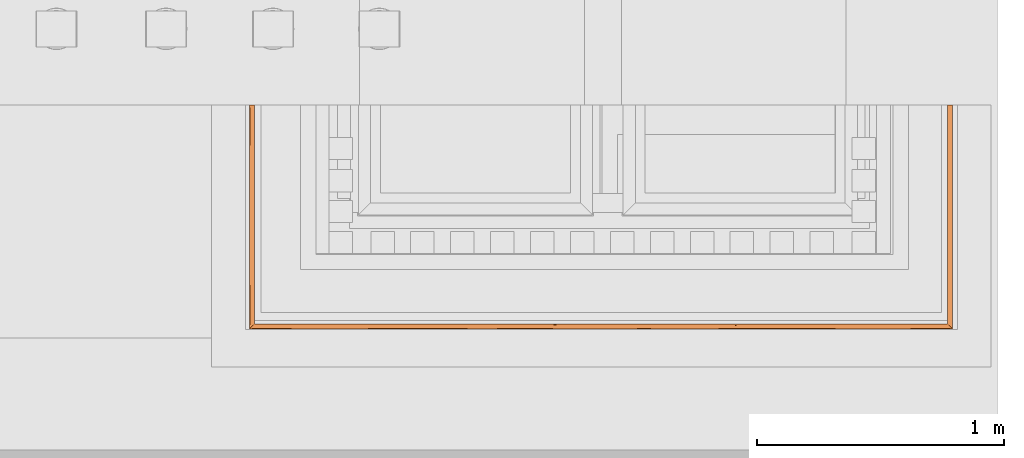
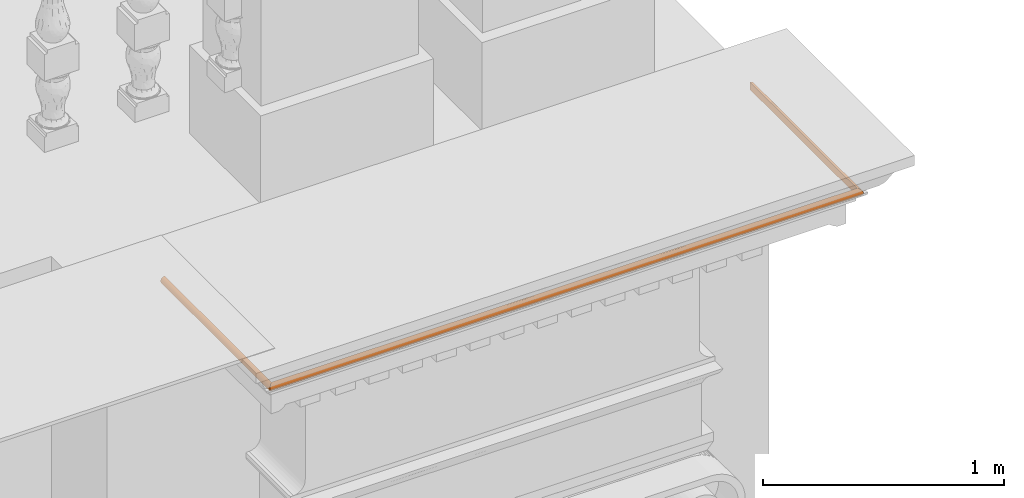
# One storey, part 40 of 44: 1 proxy.
"""IFC2X3 building model written with IfcOpenShell, lengths in metres."""

import ifcopenshell
import ifcopenshell.guid

model = None  # the IFC model being written
_history = None  # IfcOwnerHistory: only IFC2X3 demands one
_inside = {}  # id of a spatial element -> (the spatial element, [elements in it])
_under = {}  # id of a project, library or spatial element -> (it, [spatial elements below it])
_declared = {}  # id of a project -> (the project, [libraries it declares])
_typed = {}  # id of a type object -> (the type object, [elements of that type])
_made_of = {}  # id of a material, layer set ... -> (it, [elements and type objects made of it])


def new_model(schema):
    """Start an empty IFC model of exactly this schema.

    Asked for "IFC4X3", IfcOpenShell would pick the latest addendum, in which some entities
    have other attributes; the version numbers below select the first issue.
    IFC2X3 requires an IfcOwnerHistory on every rooted entity: one is made here for all.
    """
    global model, _history
    if schema == "IFC4X3":
        model = ifcopenshell.file(schema_version=(4, 3, 0, 0))
    else:
        model = ifcopenshell.file(schema=schema)
    _inside.clear()
    _under.clear()
    _declared.clear()
    _typed.clear()
    _made_of.clear()
    _history = None
    if model.schema == "IFC2X3":
        org = make("IfcOrganization", Name="unknown")
        user = make(
            "IfcPersonAndOrganization",
            ThePerson=make("IfcPerson", FamilyName="unknown"),
            TheOrganization=org,
        )
        app = make(
            "IfcApplication",
            ApplicationDeveloper=org,
            Version="unknown",
            ApplicationFullName="unknown",
            ApplicationIdentifier="unknown",
        )
        _history = make(
            "IfcOwnerHistory",
            OwningUser=user,
            OwningApplication=app,
            ChangeAction="ADDED",
            CreationDate=0,
        )
    return model


def make(cls, **values):
    """One entity of the class cls with the attributes given. An attribute that is None is left unset."""
    return model.create_entity(
        cls, **{name: value for name, value in values.items() if value is not None}
    )


def entity(cls, *values):
    """Any entity or typed value of the class cls, its attributes in the order of the schema. None: left unset."""
    e = model.create_entity(cls)
    for i, value in enumerate(values):
        if value is not None:
            e[i] = value
    return e


def rooted(cls, **values):
    """An entity with a GlobalId (a new one), such as an element, a storey or a relation."""
    return make(cls, GlobalId=ifcopenshell.guid.new(), OwnerHistory=_history, **values)


def si_unit(unit_type, name, prefix=None):
    """IfcSIUnit, for example si_unit("LENGTHUNIT", "METRE", prefix="MILLI")."""
    return make("IfcSIUnit", UnitType=unit_type, Prefix=prefix, Name=name)


def converted_unit(unit_type, name, factor, base, dimensions=None, offset=None):
    """IfcConversionBasedUnit, such as the inch: factor (a typed value) times the base unit."""
    return make(
        "IfcConversionBasedUnit"
        if offset is None
        else "IfcConversionBasedUnitWithOffset",
        ConversionOffset=offset,
        Dimensions=None
        if dimensions is None
        else entity("IfcDimensionalExponents", *dimensions),
        UnitType=unit_type,
        Name=name,
        ConversionFactor=make(
            "IfcMeasureWithUnit", ValueComponent=factor, UnitComponent=base
        ),
    )


def derived_unit(unit_type, elements):
    """IfcDerivedUnit: a product of units, each with its exponent."""
    return make(
        "IfcDerivedUnit",
        Elements=[
            make("IfcDerivedUnitElement", Unit=unit, Exponent=power)
            for unit, power in elements
        ],
        UnitType=unit_type,
    )


def assignment(units):
    """IfcUnitAssignment: the units of a project."""
    return None if units is None else make("IfcUnitAssignment", Units=units)


def point(xyz):
    """IfcCartesianPoint."""
    return None if xyz is None else make("IfcCartesianPoint", Coordinates=xyz)


def direction(xyz):
    """IfcDirection."""
    return None if xyz is None else make("IfcDirection", DirectionRatios=xyz)


def frame(location, z_axis=None, x_axis=None):
    """IfcAxis2Placement3D, a coordinate frame: its origin and axes. An axis left out is left unset."""
    return make(
        "IfcAxis2Placement3D",
        Location=point(location),
        Axis=direction(z_axis),
        RefDirection=direction(x_axis),
    )


def origin():
    """The frame at (0, 0, 0) with its axes left unset."""
    return frame((0.0, 0.0, 0.0))


def place(relative_to, where):
    """IfcLocalPlacement: puts the frame where relative to a parent placement (None: the world)."""
    return make(
        "IfcLocalPlacement", PlacementRelTo=relative_to, RelativePlacement=where
    )


def context(
    kind, dimensions, precision=None, world=None, true_north=None, identifier=None
):
    """IfcGeometricRepresentationContext, for example the 3D "Model" context."""
    return make(
        "IfcGeometricRepresentationContext",
        ContextIdentifier=identifier,
        ContextType=kind,
        CoordinateSpaceDimension=dimensions,
        Precision=precision,
        WorldCoordinateSystem=world,
        TrueNorth=true_north,
    )


def subcontext(parent, identifier, kind, view, scale=None):
    """IfcGeometricRepresentationSubContext, for example "Body" below "Model"."""
    return make(
        "IfcGeometricRepresentationSubContext",
        ContextIdentifier=identifier,
        ContextType=kind,
        ParentContext=parent,
        TargetScale=scale,
        TargetView=view,
    )


def project(units=None, contexts=None):
    """IfcProject with its units and contexts."""
    return rooted(
        "IfcProject",
        Name="project",
        RepresentationContexts=contexts,
        UnitsInContext=assignment(units),
    )


def spatial(cls, under=None, at=None, **own):
    """A site, building, storey or space (cls), placed at a placement, below another one or the project."""
    s = rooted(cls, ObjectPlacement=at, **own)
    if under is not None:
        _under.setdefault(under.id(), (under, []))[1].append(s)
    return s


def faces_of(points, faces, orient=None, outer=None):
    """IfcFace entities. A face is a list of loops; a loop is a list of indices into points, from 0.

    orient and outer hold one flag for each loop. By default every Orientation is true, the
    first loop of a face is its IfcFaceOuterBound and the others are IfcFaceBound.
    """
    made = []
    for i, loops in enumerate(faces):
        bounds = []
        for j, loop in enumerate(loops):
            is_outer = j == 0 if outer is None else outer[i][j]
            bounds.append(
                make(
                    "IfcFaceOuterBound" if is_outer else "IfcFaceBound",
                    Bound=make("IfcPolyLoop", Polygon=[points[k] for k in loop]),
                    Orientation=True if orient is None else orient[i][j],
                )
            )
        made.append(make("IfcFace", Bounds=bounds))
    return made


def faceted_brep(points, faces, orient=None, outer=None, voids=None):
    """IfcFacetedBrep: a solid bounded by flat faces; with voids (closed shells), ...WithVoids."""
    shared = [point(p) for p in points]
    hull = make("IfcClosedShell", CfsFaces=faces_of(shared, faces, orient, outer))
    if voids is None:
        return make("IfcFacetedBrep", Outer=hull)
    return make(
        "IfcFacetedBrepWithVoids",
        Outer=hull,
        Voids=[
            make(cls, CfsFaces=faces_of(shared, fs, o, b)) for cls, fs, o, b in voids
        ],
    )


def shape(context_of_items, identifier, shape_type, items):
    """IfcShapeRepresentation: the items that make up one representation, for example the "Body"."""
    return make(
        "IfcShapeRepresentation",
        ContextOfItems=context_of_items,
        RepresentationIdentifier=identifier,
        RepresentationType=shape_type,
        Items=items,
    )


def material(Name=None, Category=None):
    """IfcMaterial."""
    return make("IfcMaterial", Name=Name, Category=Category)


def made_of(thing, what):
    """Note that an element or type object is made of a material, layer set ...; save() writes the relation."""
    if what is not None:
        _made_of.setdefault(what.id(), (what, []))[1].append(thing)
    return thing


def element(
    cls,
    number,
    at=None,
    inside=None,
    cuts=None,
    type_object=None,
    material=None,
    context=None,
    identifier="Body",
    shape_type=None,
    held_by="IfcProductDefinitionShape",
    body=None,
    shapes=None,
    **own,
):
    """One element of the class cls, such as IfcWall. Its Tag is "e" and its number.

    at: its placement. inside: the storey or other place that contains it. cuts: it is an
    opening in that element (IfcRelVoidsElement). A single representation is given by context,
    identifier, shape_type and body (its items); several are given by shapes. held_by: the class
    of the entity that holds the representations. save() writes the other relations.
    """
    e = rooted(cls, Tag="e%d" % number, ObjectPlacement=at, **own)
    if body is not None:
        shapes = [shape(context, identifier, shape_type, body)]
    if shapes is not None:
        e.Representation = make(held_by, Representations=shapes)
    if inside is not None:
        _inside.setdefault(inside.id(), (inside, []))[1].append(e)
    if cuts is not None:
        rooted(
            "IfcRelVoidsElement", RelatingBuildingElement=cuts, RelatedOpeningElement=e
        )
    if type_object is not None:
        _typed.setdefault(type_object.id(), (type_object, []))[1].append(e)
    return made_of(e, material)


def aggregate(whole, parts):
    """IfcRelAggregates: a whole, such as a stair, and the parts it consists of."""
    return rooted("IfcRelAggregates", RelatingObject=whole, RelatedObjects=parts)


def save(model, path):
    """Write the relations noted so far, then the file.

    IfcRelAggregates (storeys below a building ...), IfcRelContainedInSpatialStructure (elements
    in a storey), IfcRelDefinesByType, IfcRelAssociatesMaterial and IfcRelDeclares: one each for
    every whole, place, type object, material and project.
    """
    for whole, parts in _under.values():
        aggregate(whole, parts)
    for where, things in _inside.values():
        rooted(
            "IfcRelContainedInSpatialStructure",
            RelatedElements=things,
            RelatingStructure=where,
        )
    for kind, things in _typed.values():
        rooted("IfcRelDefinesByType", RelatedObjects=things, RelatingType=kind)
    for what, things in _made_of.values():
        rooted("IfcRelAssociatesMaterial", RelatedObjects=things, RelatingMaterial=what)
    for by, libraries in _declared.values():
        rooted("IfcRelDeclares", RelatingContext=by, RelatedDefinitions=libraries)
    model.write(path)


model = new_model("IFC2X3")

# Units and contexts
model_context = context("Model", 3, precision=1e-05, world=origin(), true_north=direction((6.12303176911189e-17, 1.0)))
body_context = subcontext(model_context, "Body", "Model", "MODEL_VIEW")
ifc_project = project(units=[si_unit("LENGTHUNIT", "METRE"), si_unit("AREAUNIT", "SQUARE_METRE"), si_unit("VOLUMEUNIT", "CUBIC_METRE"), converted_unit("PLANEANGLEUNIT", "DEGREE", entity("IfcRatioMeasure", 0.0174532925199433), si_unit("PLANEANGLEUNIT", "RADIAN"), dimensions=[0, 0, 0, 0, 0, 0, 0]), si_unit("MASSUNIT", "GRAM", prefix="KILO"), derived_unit("MASSDENSITYUNIT", [(si_unit("MASSUNIT", "GRAM", prefix="KILO"), 1), (si_unit("LENGTHUNIT", "METRE"), -3)]), si_unit("TIMEUNIT", "SECOND"), si_unit("FREQUENCYUNIT", "HERTZ"), si_unit("THERMODYNAMICTEMPERATUREUNIT", "DEGREE_CELSIUS"), derived_unit("THERMALTRANSMITTANCEUNIT", [(si_unit("MASSUNIT", "GRAM", prefix="KILO"), 1), (si_unit("THERMODYNAMICTEMPERATUREUNIT", "KELVIN"), -1), (si_unit("TIMEUNIT", "SECOND"), -3)]), derived_unit("VOLUMETRICFLOWRATEUNIT", [(si_unit("LENGTHUNIT", "METRE"), 3), (si_unit("TIMEUNIT", "SECOND"), -1)]), si_unit("ELECTRICCURRENTUNIT", "AMPERE"), si_unit("ELECTRICVOLTAGEUNIT", "VOLT"), si_unit("POWERUNIT", "WATT"), si_unit("FORCEUNIT", "NEWTON", prefix="KILO"), si_unit("ILLUMINANCEUNIT", "LUX"), si_unit("LUMINOUSFLUXUNIT", "LUMEN"), si_unit("LUMINOUSINTENSITYUNIT", "CANDELA"), derived_unit("USERDEFINED", [(si_unit("MASSUNIT", "GRAM", prefix="KILO"), -1), (si_unit("LENGTHUNIT", "METRE"), -2), (si_unit("TIMEUNIT", "SECOND"), 3), (si_unit("LUMINOUSFLUXUNIT", "LUMEN"), 1)]), derived_unit("LINEARVELOCITYUNIT", [(si_unit("LENGTHUNIT", "METRE"), 1), (si_unit("TIMEUNIT", "SECOND"), -1)]), si_unit("PRESSUREUNIT", "PASCAL"), derived_unit("USERDEFINED", [(si_unit("LENGTHUNIT", "METRE"), -2), (si_unit("MASSUNIT", "GRAM", prefix="KILO"), 1), (si_unit("TIMEUNIT", "SECOND"), -2)])], contexts=[model_context])

# Site, building, storey
site_placement = place(None, origin())
site = spatial("IfcSite", under=ifc_project, at=site_placement, Name="Default", CompositionType="ELEMENT")
building_placement = place(site_placement, origin())
building = spatial("IfcBuilding", under=site, at=building_placement, CompositionType="ELEMENT")
storey_placement = place(building_placement, origin())
storey = spatial("IfcBuildingStorey", under=building, at=storey_placement, Name="Livello 1", CompositionType="ELEMENT", Elevation=0.0)

# Proxy
ifc_material = material(Name="Piperno")
proxy_placement = place(storey_placement, frame((8.99129761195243, 0.355124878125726, 23.0788390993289)))
element("IfcBuildingElementProxy", 1, at=proxy_placement, inside=storey, material=ifc_material, Name="Stratigrafia", context=body_context, shape_type="Brep", body=[
    faceted_brep([(2.84335871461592, 0.908247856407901, 0.0315863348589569), (2.84565631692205, 0.908247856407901, 0.0274250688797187), (2.84684265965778, 0.908247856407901, 0.0228220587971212), (2.84684265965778, 0.908247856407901, 0.0180686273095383), (2.84565631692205, 0.908247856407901, 0.0134656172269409), (2.84335871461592, 0.908247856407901, 0.0093043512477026), (2.84009526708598, 0.908247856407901, 0.00584819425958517), (2.83607251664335, 0.908247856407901, 0.00331588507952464), (2.83154506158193, 0.908247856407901, 0.00186769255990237), (2.8267994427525, 0.908247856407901, 0.0015952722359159), (2.8267994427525, 0.908247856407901, 0.0392954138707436), (2.83154506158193, 0.908247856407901, 0.0390229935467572), (2.83607251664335, 0.908247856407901, 0.0375748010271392), (2.84009526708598, 0.908247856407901, 0.0350424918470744), (0.00278161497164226, 0.908247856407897, 0.0274250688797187), (0.00507921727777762, 0.908247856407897, 0.0315863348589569), (0.00834266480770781, 0.908247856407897, 0.0350424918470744), (0.0123654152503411, 0.908247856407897, 0.0375748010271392), (0.0168928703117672, 0.908247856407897, 0.0390229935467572), (0.0216384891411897, 0.908247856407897, 0.0392954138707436), (0.0216384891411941, 0.908247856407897, 0.0015952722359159), (0.0168928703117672, 0.908247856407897, 0.00186769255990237), (0.0123654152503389, 0.908247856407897, 0.00331588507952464), (0.00834266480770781, 0.908247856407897, 0.00584819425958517), (0.00507921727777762, 0.908247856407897, 0.0093043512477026), (0.0027816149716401, 0.908247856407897, 0.0134656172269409), (0.0015952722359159, 0.908247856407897, 0.0180686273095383), (0.0015952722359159, 0.908247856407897, 0.0228220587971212), (2.83822898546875, 0.214377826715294, 0.0363944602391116), (2.83607251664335, 0.0123654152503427, 0.0375748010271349), (2.84009526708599, 0.00834266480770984, 0.0350424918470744), (2.84129866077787, 0.458798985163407, 0.0339639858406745), (2.84183610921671, 0.644526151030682, 0.0334174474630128), (2.83816384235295, 0.467085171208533, 0.0364356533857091), (2.8267994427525, 0.604692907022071, 0.0015952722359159), (2.83054907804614, 0.530011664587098, 0.00171025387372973), (2.83001274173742, 0.366464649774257, 0.00164786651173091), (2.84335871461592, 0.00507921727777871, 0.0315863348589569), (2.84189219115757, 0.27386888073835, 0.0333577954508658), (2.84640221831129, 0.26925326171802, 0.025132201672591), (2.84466010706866, 0.207742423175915, 0.0295397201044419), (2.84565631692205, 0.00278161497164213, 0.0274250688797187), (2.83396197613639, 0.280257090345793, 0.0384071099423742), (2.84503240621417, 0.455215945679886, 0.0120645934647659), (2.84640733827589, 0.454921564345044, 0.0157785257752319), (2.8446667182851, 0.271444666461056, 0.0113630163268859), (2.84335871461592, 0.00507921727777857, 0.00930435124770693), (2.84009526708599, 0.0083426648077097, 0.00584819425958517), (2.84187896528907, 0.210753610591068, 0.00751877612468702), (2.83154506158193, 0.0168928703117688, 0.0018676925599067), (2.83031173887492, 0.201549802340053, 0.00168072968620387), (2.83396214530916, 0.280675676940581, 0.00248363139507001), (2.84684265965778, 0.00159527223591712, 0.0228220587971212), (2.84699273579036, 0.205349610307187, 0.0204453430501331), (2.8267994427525, 0.021638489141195, 0.0392954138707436), (2.83154506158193, 0.0168928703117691, 0.0390229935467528), (2.83030951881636, 0.201466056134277, 0.039210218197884), (2.8267994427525, 0.301137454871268, 0.0392954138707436), (2.83063053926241, 0.452914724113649, 0.0391695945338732), (2.84565631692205, 0.00278161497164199, 0.0134656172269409), (2.84183610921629, 0.702798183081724, 0.0074732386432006), (2.83816384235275, 0.712887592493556, 0.00445503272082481), (2.83607251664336, 0.012365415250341, 0.00331588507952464), (2.83816384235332, 0.704220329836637, 0.0364356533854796), (2.8338545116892, 0.644526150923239, 0.0384418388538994), (2.84699273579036, 0.712887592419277, 0.0204453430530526), (2.84639481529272, 0.702798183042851, 0.0157296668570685), (2.84463889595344, 0.704220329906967, 0.0295782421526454), (2.84639481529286, 0.642111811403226, 0.0251610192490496), (2.84468577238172, 0.45551473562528, 0.0294928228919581), (2.84640020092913, 0.196313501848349, 0.0157506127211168), (2.84684265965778, 0.00159527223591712, 0.0180686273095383), (2.84696382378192, 0.456343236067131, 0.0214902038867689), (2.84621722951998, 0.455561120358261, 0.0258030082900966), (2.83830664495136, 0.458295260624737, 0.00454582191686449), (2.84254895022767, 0.453619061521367, 0.00827237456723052), (2.83822596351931, 0.204901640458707, 0.00449430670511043), (2.8267994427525, 0.301137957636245, 0.0015952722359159), (2.8267994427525, 0.0216384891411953, 0.0015952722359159), (2.83391422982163, 0.458791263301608, 0.00246805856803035), (2.83016512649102, 0.721817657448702, 0.00166401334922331), (2.83385451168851, 0.636898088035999, 0.00244884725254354), (2.84463889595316, 0.638410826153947, 0.0113124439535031), (2.82679944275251, 0.604692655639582, 0.0392954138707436), (2.83012292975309, 0.723306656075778, 0.0392312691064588), (2.83464434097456, 0.462931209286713, 0.0381698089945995), (2.63756957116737, 0.0102100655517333, 0.00449551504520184), (2.57476271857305, 0.0144786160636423, 0.00248270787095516), (0.0015952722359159, 0.0015952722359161, 0.0228220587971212), (0.145231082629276, 0.0014451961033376, 0.0204453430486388), (0.222629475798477, 0.00203700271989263, 0.0251372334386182), (0.0216384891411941, 0.0216384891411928, 0.0392954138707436), (0.0168928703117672, 0.0168928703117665, 0.0390229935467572), (0.203583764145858, 0.0183182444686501, 0.0392316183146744), (2.64900331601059, 0.00377868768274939, 0.0295412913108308), (2.62580845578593, 0.00203700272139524, 0.0251372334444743), (2.38227488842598, 0.00192473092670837, 0.0246751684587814), (2.52067139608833, 0.00144519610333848, 0.0204453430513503), (0.609781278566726, 0.00689255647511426, 0.00717209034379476), (0.443456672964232, 0.01013600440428, 0.00454279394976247), (0.733282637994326, 0.0106616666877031, 0.00421751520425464), (0.466163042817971, 0.00192473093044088, 0.0162155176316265), (0.32776653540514, 0.00144519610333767, 0.0204453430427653), (0.222629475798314, 0.00203700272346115, 0.0157534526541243), (0.0015952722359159, 0.00159527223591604, 0.0180686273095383), (0.775211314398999, 0.00278265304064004, 0.0134630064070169), (0.690017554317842, 0.00182479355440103, 0.0166769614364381), (0.595093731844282, 0.0027395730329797, 0.0135723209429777), (0.403758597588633, 0.0176730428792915, 0.0391509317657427), (0.628749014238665, 0.0216384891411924, 0.0392954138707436), (0.32519375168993, 0.0216384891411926, 0.0392954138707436), (0.00278161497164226, 0.00278161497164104, 0.0274250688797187), (0.00507921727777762, 0.00507921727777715, 0.0315863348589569), (0.199434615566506, 0.00377868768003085, 0.0295412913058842), (0.265342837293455, 0.00654752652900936, 0.0333597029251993), (0.00834266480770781, 0.00834266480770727, 0.0350424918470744), (2.23865665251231, 0.00689255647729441, 0.0337185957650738), (2.40498125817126, 0.0101360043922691, 0.0363478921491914), (2.11515529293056, 0.0106616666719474, 0.0366731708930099), (0.199434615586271, 0.00377868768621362, 0.0113493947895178), (0.00278161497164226, 0.00278161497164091, 0.0134656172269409), (0.496645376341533, 0.00650199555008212, 0.0333109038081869), (0.440855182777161, 0.0101368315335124, 0.0363484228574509), (2.57372725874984, 0.0144781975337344, 0.0384078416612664), (2.64467049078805, 0.0183129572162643, 0.0392310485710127), (2.4440037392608, 0.0176991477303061, 0.0391546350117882), (0.775425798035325, 0.0174017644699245, 0.0391102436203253), (0.573603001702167, 0.0153889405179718, 0.0386798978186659), (1.79990849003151, 0.00150446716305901, 0.0219407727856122), (1.64269787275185, 0.00163670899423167, 0.0177619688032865), (1.91098158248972, 0.00182272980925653, 0.0166871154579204), (1.64512055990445, 0.0171037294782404, 0.0390608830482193), (1.46941676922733, 0.0165294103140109, 0.0389518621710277), (1.54037072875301, 0.0132319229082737, 0.0379521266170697), (0.210868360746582, 0.0102100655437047, 0.0363951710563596), (0.0123654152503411, 0.012365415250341, 0.0375748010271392), (0.273675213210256, 0.0144786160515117, 0.0384079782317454), (2.40758274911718, 0.0101368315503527, 0.00454226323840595), (2.58309509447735, 0.00654752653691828, 0.00753098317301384), (2.35179255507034, 0.00650199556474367, 0.00757978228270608), (2.63618031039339, 0.0102096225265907, 0.0363948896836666), (0.434319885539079, 0.00375434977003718, 0.0294968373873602), (0.467738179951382, 0.00192823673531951, 0.0246904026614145), (0.735975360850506, 0.00298732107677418, 0.0279218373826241), (0.955175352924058, 0.00181743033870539, 0.024177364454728), (1.02942023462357, 0.00151455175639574, 0.018827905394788), (1.21402024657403, 0.00162121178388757, 0.0230183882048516), (0.212257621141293, 0.0102096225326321, 0.00449579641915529), (0.274710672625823, 0.0144781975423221, 0.00248284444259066), (0.203767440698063, 0.0183129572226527, 0.00165963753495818), (0.404434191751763, 0.0176991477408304, 0.00173605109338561), (2.64900331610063, 0.00377868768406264, 0.0113493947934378), (2.70320684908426, 0.00144519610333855, 0.0204453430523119), (2.62580845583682, 0.00203700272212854, 0.0157534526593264), (0.84171011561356, 0.00152507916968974, 0.018709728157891), (1.27400284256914, 0.0115043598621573, 0.00374372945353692), (1.08408246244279, 0.0134028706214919, 0.00287012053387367), (1.28353331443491, 0.0164668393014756, 0.00195181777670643), (2.19232649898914, 0.00186933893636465, 0.0244263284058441), (2.17559801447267, 0.00144519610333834, 0.0204453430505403), (2.34813470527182, 0.00145578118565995, 0.0210777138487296), (2.58182587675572, 0.00654726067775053, 0.0333594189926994), (0.266612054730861, 0.00654726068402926, 0.00753126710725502), (0.00834266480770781, 0.00834266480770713, 0.00584819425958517), (0.00507921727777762, 0.00507921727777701, 0.0093043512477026), (1.12066304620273, 0.021638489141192, 0.0392954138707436), (0.997684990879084, 0.0179973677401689, 0.0391943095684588), (1.29179829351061, 0.0163362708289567, 0.0389110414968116), (1.15027194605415, 0.00293084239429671, 0.0277893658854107), (1.35466625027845, 0.00474557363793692, 0.0311143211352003), (1.10025454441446, 0.00598031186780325, 0.0327259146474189), (2.52324418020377, 0.0216384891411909, 0.0392954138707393), (1.72777085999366, 0.0216384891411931, 0.0015952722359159), (1.8507529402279, 0.0179973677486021, 0.00169637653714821), (1.55663963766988, 0.0163362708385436, 0.00197964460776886), (0.949636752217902, 0.00210012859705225, 0.0155137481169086), (0.0123654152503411, 0.0123654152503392, 0.00331588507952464), (2.07322661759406, 0.00278265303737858, 0.0274276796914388), (2.24590271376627, 0.00291481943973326, 0.0277512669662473), (2.07301213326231, 0.0174017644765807, 0.00178044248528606), (2.21968705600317, 0.0216384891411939, 0.0015952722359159), (2.27483493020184, 0.0153889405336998, 0.00221078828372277), (2.44467933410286, 0.017673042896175, 0.00173975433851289), (2.5232410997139, 0.0216384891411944, 0.0015952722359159), (2.64485416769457, 0.0183182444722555, 0.00165906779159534), (2.41411804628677, 0.00375434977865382, 0.0113938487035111), (2.38069975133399, 0.00192823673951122, 0.0162002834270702), (2.11246257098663, 0.00298732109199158, 0.012968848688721), (2.2743767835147, 0.0153976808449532, 0.0386822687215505), (0.0168928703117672, 0.0168928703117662, 0.00186769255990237), (0.574061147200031, 0.0153976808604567, 0.00220841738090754), (0.0216384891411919, 0.0216384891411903, 0.0015952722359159), (0.32519253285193, 0.0216384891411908, 0.00159527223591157), (2.40632271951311, 0.00590995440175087, 0.0326431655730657), (2.39334385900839, 0.00375220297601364, 0.0294929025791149), (0.442115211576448, 0.00590995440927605, 0.00824752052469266), (0.455094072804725, 0.0037522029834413, 0.0113977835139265), (2.21968826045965, 0.0216384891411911, 0.0392954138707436), (0.628750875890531, 0.0216384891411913, 0.0015952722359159), (0.660247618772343, 0.00725728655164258, 0.0340782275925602), (0.997684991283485, 0.0136581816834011, 0.0381192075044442), (0.944791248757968, 0.00391137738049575, 0.0297788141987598), (1.39366594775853, 0.00734109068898, 0.0341581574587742), (1.59298093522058, 0.00724537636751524, 0.0340667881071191), (1.52384505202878, 0.00969429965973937, 0.0360556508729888), (2.18819031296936, 0.00725728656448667, 0.00681245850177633), (1.85075294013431, 0.0136581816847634, 0.00277147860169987), (1.42153819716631, 0.0021795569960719, 0.015228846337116), (1.42421896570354, 0.00144519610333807, 0.0204453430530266), (1.23550369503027, 0.00152685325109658, 0.0186906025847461), (1.19280459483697, 0.00728233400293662, 0.00678846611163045), (1.08074890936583, 0.0098312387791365, 0.00474252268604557), (1.91613299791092, 0.0216384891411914, 0.039295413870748), (2.00993849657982, 0.0153707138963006, 0.0386749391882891), (1.83603718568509, 0.0169994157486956, 0.0390424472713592), (1.61257773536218, 0.0216384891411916, 0.0392954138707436), (1.89203566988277, 0.0103600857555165, 0.0364894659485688), (1.76435546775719, 0.0134028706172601, 0.0380205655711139), (1.9822695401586, 0.0064223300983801, 0.0332246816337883), (0.932304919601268, 0.0216384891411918, 0.0015952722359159), (0.838499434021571, 0.0153707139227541, 0.0022157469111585), (1.07201888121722, 0.0179604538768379, 0.00170102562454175), (1.23585896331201, 0.0216384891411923, 0.00159527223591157), (0.917061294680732, 0.0116210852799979, 0.00368249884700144), (0.866168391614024, 0.00642233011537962, 0.00766600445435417), (0.720189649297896, 0.0107250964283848, 0.0367108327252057), (0.938275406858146, 0.0095507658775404, 0.0359567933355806), (0.874706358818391, 0.0216384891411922, 0.0392954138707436), (1.91016252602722, 0.00955076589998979, 0.00493389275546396), (2.12824828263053, 0.0107250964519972, 0.0041798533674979), (1.97372680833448, 0.0216384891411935, 0.0015952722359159), (0.679736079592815, 0.00445375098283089, 0.0102159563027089), (0.500303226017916, 0.00145578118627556, 0.0198129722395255), (1.12770429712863, 0.00206977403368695, 0.0156274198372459), (0.989754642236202, 0.00339597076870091, 0.0120839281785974), (1.21505934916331, 0.00322240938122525, 0.0124452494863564), (1.1150262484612, 0.00491615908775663, 0.00953120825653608), (1.28622775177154, 0.0052369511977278, 0.0090914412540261), (1.44429130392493, 0.00438724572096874, 0.0103199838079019), (1.69091020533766, 0.00681204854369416, 0.00725415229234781), (1.66941425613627, 0.00315255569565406, 0.0125964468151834), (1.38840431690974, 0.00244126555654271, 0.0264991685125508), (1.59998179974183, 0.00348248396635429, 0.0289798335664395), (0.82223981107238, 0.00643143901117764, 0.0332345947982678), (1.89218413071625, 0.00332368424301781, 0.0122320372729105), (1.99026631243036, 0.00170928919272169, 0.0235933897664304), (1.79258400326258, 0.00735012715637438, 0.0341667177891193), (1.80049937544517, 0.00463251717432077, 0.0309471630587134), (0.657662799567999, 0.0048981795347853, 0.0313340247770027), (0.657707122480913, 0.00187018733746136, 0.0244302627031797), (0.67283991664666, 0.0014451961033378, 0.0204453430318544), (2.14266022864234, 0.00459318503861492, 0.0308880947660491), (1.79409940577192, 0.00249269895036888, 0.0266491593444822), (1.59634544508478, 0.00184958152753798, 0.0243335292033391), (2.0261981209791, 0.00643143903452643, 0.00765609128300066), (2.19077513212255, 0.00489817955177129, 0.00955666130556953), (2.19073080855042, 0.00187018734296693, 0.0164604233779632), (1.94627393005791, 0.0014473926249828, 0.0201572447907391), (1.68707490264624, 0.0100573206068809, 0.0362971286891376), (0.731073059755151, 0.0140043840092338, 0.0382462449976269), (2.117364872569, 0.0140043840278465, 0.00264444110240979), (1.14808094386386, 0.0106407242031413, 0.036660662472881), (1.36662065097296, 0.0105567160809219, 0.0366101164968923), (1.36662039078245, 0.0216384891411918, 0.0392954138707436), (1.70035698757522, 0.0106407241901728, 0.00423002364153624), (1.48181727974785, 0.0105567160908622, 0.00428056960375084), (1.48181491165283, 0.0216384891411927, 0.0015952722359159), (1.64459732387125, 0.00145781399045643, 0.0211357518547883), (1.97116033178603, 0.00412934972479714, 0.0301524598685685), (1.44230818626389, 0.00715102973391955, 0.0069152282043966), (1.02953721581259, 0.00684097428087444, 0.00722455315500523), (1.85158289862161, 0.00539159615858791, 0.00888859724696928), (0.00204311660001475, 0.703138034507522, 0.0251610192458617), (0.014475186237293, 0.282161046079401, 0.0384068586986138), (0.0181182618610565, 0.201848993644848, 0.0392090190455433), (0.0178758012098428, 0.410799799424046, 0.0391787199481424), (0.00660182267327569, 0.646390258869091, 0.0334174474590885), (0.00379903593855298, 0.712904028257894, 0.0295782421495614), (0.00416344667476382, 0.458183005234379, 0.0106815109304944), (0.0020431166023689, 0.455514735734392, 0.0157296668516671), (0.00379903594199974, 0.646374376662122, 0.0113124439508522), (0.0102740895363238, 0.704638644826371, 0.036435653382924), (0.0102740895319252, 0.471731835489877, 0.0364356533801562), (0.0145834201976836, 0.646390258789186, 0.0384418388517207), (0.00655901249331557, 0.210534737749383, 0.00751872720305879), (0.00660182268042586, 0.471692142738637, 0.00747323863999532), (0.0101880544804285, 0.279921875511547, 0.00450951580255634), (0.00654612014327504, 0.2720573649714, 0.0333582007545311), (0.00610145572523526, 0.459565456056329, 0.0328661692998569), (0.00379903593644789, 0.456663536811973, 0.0295782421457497), (0.00204311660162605, 0.704635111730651, 0.0157296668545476), (0.0014451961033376, 0.63984346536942, 0.0204453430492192), (0.0216384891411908, 0.301136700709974, 0.0392954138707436), (0.0183249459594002, 0.723657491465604, 0.0392323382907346), (0.00660182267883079, 0.708474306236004, 0.00747323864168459), (0.0102740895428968, 0.665513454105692, 0.00445503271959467), (0.0102090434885, 0.214073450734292, 0.0363945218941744), (0.0183675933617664, 0.192450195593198, 0.00165382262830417), (0.00203773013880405, 0.196343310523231, 0.0157506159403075), (0.00377785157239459, 0.20748488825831, 0.0295397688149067), (0.00203563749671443, 0.272006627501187, 0.0251319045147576), (0.0145004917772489, 0.219564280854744, 0.00247558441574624), (0.0145834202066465, 0.731058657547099, 0.00244884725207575), (0.0181702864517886, 0.68058129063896, 0.00167558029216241), (0.0145834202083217, 0.521096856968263, 0.00244884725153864), (0.0014451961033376, 0.206002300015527, 0.0204453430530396), (0.00218991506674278, 0.469458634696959, 0.025697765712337), (0.00148461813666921, 0.422922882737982, 0.0216652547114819), (0.010909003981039, 0.472250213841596, 0.00407253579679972), (0.00377131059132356, 0.270509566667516, 0.0113628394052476), (0.0174616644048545, 0.569310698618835, 0.0391195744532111), (0.0142862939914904, 0.464454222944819, 0.0383440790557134), (0.0216384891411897, 0.756464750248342, 0.0015952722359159), (0.0184370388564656, 0.49241986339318, 0.00164666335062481), (0.0216384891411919, 0.604693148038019, 0.0015952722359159), (0.021638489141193, 0.30113843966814, 0.0015952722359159), (0.021638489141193, 0.604692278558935, 0.0392954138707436)], [[[0, 1, 2, 3, 4, 5, 6, 7, 8, 9, 10, 11, 12, 13]], [[14, 15, 16, 17, 18, 19, 20, 21, 22, 23, 24, 25, 26, 27]], [[28, 29, 30]], [[31, 32, 33]], [[34, 35, 36]], [[30, 37, 38]], [[39, 40, 41]], [[33, 42, 28]], [[40, 37, 41]], [[43, 44, 45]], [[32, 0, 13]], [[46, 47, 48]], [[49, 50, 51]], [[39, 52, 53]], [[54, 55, 56]], [[57, 56, 58]], [[41, 52, 39]], [[55, 29, 42]], [[59, 46, 45]], [[60, 61, 6]], [[62, 49, 51]], [[63, 13, 12]], [[63, 12, 64]], [[65, 66, 3]], [[67, 0, 32]], [[0, 67, 1]], [[68, 2, 1]], [[67, 69, 68]], [[70, 53, 71]], [[39, 53, 72]], [[69, 73, 68]], [[48, 74, 75]], [[76, 48, 47]], [[53, 52, 71]], [[77, 50, 78]], [[51, 36, 79]], [[80, 8, 81]], [[60, 82, 75]], [[44, 65, 72]], [[81, 8, 7]], [[66, 82, 4]], [[66, 4, 3]], [[11, 64, 12]], [[70, 44, 53]], [[32, 63, 33]], [[4, 82, 5]], [[35, 34, 80]], [[7, 6, 61]], [[8, 80, 9]], [[10, 83, 84]], [[74, 48, 76]], [[29, 28, 42]], [[5, 60, 6]], [[40, 69, 38]], [[31, 69, 32]], [[5, 82, 60]], [[85, 33, 64]], [[56, 55, 42]], [[11, 84, 64]], [[58, 83, 57]], [[3, 2, 65]], [[44, 82, 66]], [[82, 43, 75]], [[61, 74, 81]], [[48, 45, 46]], [[74, 60, 75]], [[69, 40, 39]], [[38, 37, 40]], [[71, 59, 70]], [[72, 68, 73]], [[53, 44, 72]], [[65, 44, 66]], [[62, 76, 47]], [[75, 45, 48]], [[69, 67, 32]], [[68, 1, 67]], [[30, 38, 28]], [[28, 38, 31]], [[33, 63, 64]], [[32, 13, 63]], [[2, 68, 65]], [[72, 65, 68]], [[74, 61, 60]], [[81, 7, 61]], [[59, 45, 70]], [[44, 70, 45]], [[62, 51, 76]], [[74, 76, 51]], [[35, 80, 81]], [[9, 80, 34]], [[79, 35, 81]], [[51, 50, 36]], [[81, 74, 79]], [[74, 51, 79]], [[69, 39, 73]], [[72, 73, 39]], [[75, 43, 45]], [[82, 44, 43]], [[78, 50, 49]], [[36, 50, 77]], [[34, 36, 77]], [[36, 35, 79]], [[28, 31, 33]], [[69, 31, 38]], [[85, 58, 42]], [[84, 58, 64]], [[58, 56, 42]], [[54, 56, 57]], [[10, 84, 11]], [[58, 84, 83]], [[58, 85, 64]], [[42, 33, 85]], [[9, 34, 77, 78, 54, 57, 83, 10]], [[62, 86, 87]], [[88, 89, 90]], [[91, 92, 93]], [[86, 62, 47]], [[41, 94, 95]], [[96, 97, 95]], [[98, 99, 100]], [[101, 102, 103]], [[88, 104, 89]], [[105, 106, 107]], [[108, 109, 110]], [[111, 88, 90]], [[112, 111, 113]], [[114, 115, 112]], [[116, 117, 118]], [[119, 103, 120]], [[114, 121, 122]], [[123, 124, 125]], [[126, 109, 127]], [[128, 129, 130]], [[131, 132, 133]], [[134, 135, 115]], [[136, 92, 135]], [[137, 138, 139]], [[30, 29, 140]], [[141, 142, 143]], [[144, 145, 146]], [[99, 147, 148]], [[117, 140, 123]], [[148, 149, 150]], [[46, 59, 151]], [[95, 97, 152]], [[153, 59, 71]], [[103, 102, 89]], [[106, 105, 154]], [[155, 156, 157]], [[158, 159, 160]], [[46, 138, 47]], [[140, 161, 30]], [[162, 163, 147]], [[162, 164, 163]], [[165, 166, 167]], [[59, 153, 151]], [[152, 71, 52]], [[111, 90, 113]], [[87, 49, 62]], [[168, 169, 170]], [[161, 37, 30]], [[54, 171, 124]], [[172, 173, 174]], [[105, 175, 154]], [[163, 176, 147]], [[177, 158, 178]], [[179, 180, 181]], [[182, 180, 183]], [[78, 49, 184]], [[71, 152, 153]], [[185, 186, 187]], [[29, 55, 123]], [[188, 117, 123]], [[176, 189, 148]], [[190, 99, 148]], [[104, 120, 103]], [[90, 142, 141]], [[52, 41, 95]], [[153, 186, 185]], [[135, 134, 136]], [[108, 93, 136]], [[182, 184, 87]], [[191, 192, 149]], [[121, 114, 141]], [[134, 114, 122]], [[139, 138, 185]], [[86, 138, 137]], [[193, 117, 116]], [[194, 95, 94]], [[195, 99, 98]], [[196, 103, 119]], [[136, 122, 127]], [[93, 92, 136]], [[87, 137, 181]], [[184, 49, 87]], [[55, 124, 123]], [[125, 197, 188]], [[189, 149, 148]], [[150, 198, 190]], [[120, 164, 119]], [[101, 103, 196]], [[142, 90, 102]], [[141, 114, 113]], [[41, 37, 94]], [[96, 95, 194]], [[186, 153, 97]], [[185, 138, 151]], [[122, 121, 199]], [[167, 166, 200]], [[200, 166, 126]], [[168, 170, 201]], [[202, 203, 204]], [[137, 139, 205]], [[174, 173, 206]], [[206, 173, 179]], [[207, 208, 209]], [[155, 210, 211]], [[197, 212, 213]], [[117, 188, 118]], [[214, 215, 131]], [[216, 213, 217]], [[218, 116, 118]], [[198, 219, 220]], [[99, 190, 100]], [[221, 222, 157]], [[223, 220, 156]], [[224, 98, 100]], [[225, 226, 200]], [[227, 166, 165]], [[225, 127, 122]], [[228, 206, 229]], [[230, 173, 172]], [[229, 181, 137]], [[123, 140, 29]], [[161, 140, 117]], [[148, 147, 176]], [[162, 147, 99]], [[114, 134, 115]], [[136, 134, 122]], [[138, 86, 47]], [[87, 86, 137]], [[164, 162, 119]], [[119, 162, 195]], [[141, 113, 90]], [[114, 112, 113]], [[37, 161, 94]], [[94, 161, 193]], [[185, 151, 153]], [[138, 46, 151]], [[231, 105, 107]], [[232, 102, 101]], [[233, 234, 235]], [[175, 233, 145]], [[236, 237, 235]], [[238, 239, 240]], [[208, 146, 209]], [[208, 241, 146]], [[169, 241, 242]], [[243, 170, 226]], [[240, 207, 238]], [[244, 187, 130]], [[159, 158, 245]], [[246, 203, 247]], [[232, 142, 102]], [[201, 248, 143]], [[232, 249, 142]], [[154, 144, 250]], [[178, 194, 251]], [[160, 97, 96]], [[242, 252, 247]], [[242, 241, 253]], [[253, 252, 242]], [[208, 207, 129]], [[160, 186, 97]], [[187, 254, 255]], [[160, 256, 186]], [[257, 159, 245]], [[213, 118, 188]], [[216, 217, 258]], [[220, 100, 190]], [[223, 156, 211]], [[226, 225, 243]], [[259, 200, 126]], [[228, 229, 254]], [[260, 206, 179]], [[197, 213, 188]], [[217, 214, 131]], [[198, 220, 190]], [[221, 220, 219]], [[178, 251, 177]], [[116, 251, 193]], [[224, 234, 231]], [[98, 231, 195]], [[126, 166, 227]], [[200, 261, 167]], [[262, 204, 133]], [[263, 167, 132]], [[109, 126, 227]], [[126, 127, 259]], [[179, 173, 230]], [[206, 264, 174]], [[265, 155, 157]], [[157, 222, 266]], [[180, 179, 230]], [[179, 181, 260]], [[248, 141, 143]], [[121, 248, 199]], [[255, 185, 187]], [[139, 255, 205]], [[103, 89, 104]], [[90, 89, 102]], [[95, 152, 52]], [[153, 152, 97]], [[201, 243, 248]], [[261, 200, 226]], [[168, 241, 169]], [[170, 202, 261]], [[203, 169, 242]], [[170, 169, 202]], [[203, 242, 247]], [[204, 203, 258]], [[170, 261, 226]], [[167, 261, 262]], [[146, 241, 168]], [[129, 267, 208]], [[144, 146, 168]], [[209, 146, 145]], [[201, 144, 168]], [[144, 143, 249]], [[208, 253, 241]], [[252, 253, 128]], [[245, 252, 128]], [[177, 251, 268]], [[268, 252, 177]], [[247, 218, 246]], [[216, 218, 118]], [[258, 203, 246]], [[216, 258, 246]], [[258, 217, 133]], [[131, 133, 217]], [[167, 262, 133]], [[218, 216, 246]], [[213, 216, 118]], [[217, 213, 214]], [[263, 132, 215]], [[167, 263, 165]], [[213, 212, 214]], [[215, 214, 212]], [[145, 233, 209]], [[209, 233, 207]], [[238, 207, 235]], [[267, 128, 253]], [[235, 234, 236]], [[238, 269, 239]], [[210, 270, 211]], [[238, 237, 269]], [[228, 264, 206]], [[244, 271, 254]], [[207, 240, 129]], [[240, 244, 130]], [[240, 130, 129]], [[130, 187, 256]], [[233, 175, 234]], [[207, 233, 235]], [[231, 234, 105]], [[236, 270, 210]], [[154, 175, 145]], [[105, 234, 175]], [[144, 154, 145]], [[154, 250, 106]], [[232, 106, 250]], [[107, 101, 196]], [[101, 107, 106]], [[196, 195, 231]], [[196, 231, 107]], [[224, 231, 98]], [[133, 204, 258]], [[202, 204, 262]], [[202, 262, 261]], [[203, 202, 169]], [[224, 236, 234]], [[237, 236, 210]], [[210, 155, 269]], [[235, 237, 238]], [[210, 269, 237]], [[239, 269, 265]], [[236, 224, 270]], [[100, 223, 224]], [[270, 224, 223]], [[155, 211, 156]], [[221, 157, 156]], [[155, 265, 269]], [[157, 266, 174]], [[265, 157, 174]], [[223, 211, 270]], [[220, 223, 100]], [[220, 221, 156]], [[222, 221, 219]], [[243, 201, 170]], [[172, 174, 266]], [[144, 201, 143]], [[132, 131, 215]], [[167, 133, 132]], [[271, 240, 239]], [[254, 187, 244]], [[271, 228, 254]], [[264, 239, 265]], [[239, 264, 228]], [[174, 264, 265]], [[108, 136, 127]], [[91, 93, 110]], [[109, 108, 127]], [[110, 93, 108]], [[182, 87, 181]], [[78, 184, 183]], [[180, 182, 181]], [[183, 184, 182]], [[54, 124, 55]], [[125, 124, 171]], [[197, 125, 171]], [[123, 125, 188]], [[191, 149, 189]], [[150, 149, 192]], [[198, 150, 192]], [[148, 150, 190]], [[106, 232, 101]], [[232, 250, 249]], [[144, 249, 250]], [[143, 142, 249]], [[158, 160, 96]], [[160, 159, 256]], [[178, 96, 194]], [[245, 158, 177]], [[252, 245, 177]], [[245, 128, 257]], [[96, 178, 158]], [[194, 193, 251]], [[116, 218, 251]], [[268, 218, 247]], [[218, 268, 251]], [[252, 268, 247]], [[128, 130, 257]], [[257, 130, 256]], [[256, 159, 257]], [[187, 186, 256]], [[94, 193, 194]], [[117, 193, 161]], [[119, 195, 196]], [[99, 195, 162]], [[127, 225, 259]], [[200, 259, 225]], [[181, 229, 260]], [[206, 260, 229]], [[199, 248, 243]], [[141, 248, 121]], [[243, 225, 199]], [[122, 199, 225]], [[205, 255, 254]], [[185, 255, 139]], [[254, 229, 205]], [[137, 205, 229]], [[208, 267, 253]], [[129, 128, 267]], [[240, 271, 244]], [[228, 271, 239]], [[78, 183, 180, 230, 172, 266, 222, 219, 198, 192, 191, 91, 110, 109, 227, 165, 263, 215, 212, 197, 171, 54]], [[14, 27, 272]], [[273, 274, 275]], [[92, 274, 273]], [[15, 276, 16]], [[14, 277, 15]], [[278, 279, 280]], [[281, 282, 283]], [[277, 14, 272]], [[17, 281, 283]], [[284, 285, 286]], [[287, 288, 289]], [[290, 25, 280]], [[272, 27, 291]], [[283, 18, 17]], [[292, 274, 91]], [[293, 19, 18]], [[294, 23, 295]], [[115, 296, 287]], [[191, 189, 297]], [[287, 112, 115]], [[282, 287, 296]], [[104, 298, 120]], [[112, 287, 299]], [[111, 112, 299]], [[111, 300, 88]], [[278, 280, 285]], [[290, 26, 25]], [[296, 115, 135]], [[176, 301, 189]], [[300, 299, 289]], [[302, 303, 304]], [[88, 305, 104]], [[302, 22, 21]], [[300, 306, 307]], [[24, 23, 294]], [[307, 279, 305]], [[308, 285, 295]], [[286, 301, 176]], [[305, 88, 300]], [[298, 104, 305]], [[302, 295, 22]], [[135, 92, 273]], [[281, 17, 16]], [[280, 25, 24]], [[297, 189, 301]], [[120, 309, 164]], [[22, 295, 23]], [[284, 164, 309]], [[286, 176, 163]], [[164, 284, 163]], [[310, 311, 275]], [[291, 27, 26]], [[288, 282, 276]], [[21, 20, 312]], [[290, 279, 291]], [[275, 311, 273]], [[293, 18, 283]], [[308, 295, 304]], [[304, 303, 313]], [[294, 285, 280]], [[307, 305, 300]], [[298, 279, 309]], [[291, 307, 306]], [[277, 289, 276]], [[308, 301, 286]], [[301, 304, 313]], [[289, 299, 287]], [[300, 111, 299]], [[135, 273, 296]], [[282, 296, 273]], [[284, 309, 278]], [[286, 163, 284]], [[279, 290, 280]], [[291, 26, 290]], [[16, 276, 281]], [[282, 281, 276]], [[285, 294, 295]], [[280, 24, 294]], [[277, 272, 306]], [[276, 15, 277]], [[279, 298, 305]], [[309, 120, 298]], [[300, 289, 306]], [[279, 307, 291]], [[312, 303, 21]], [[295, 302, 304]], [[303, 312, 314]], [[303, 314, 313]], [[21, 303, 302]], [[314, 315, 313]], [[313, 315, 297]], [[277, 306, 289]], [[291, 306, 272]], [[313, 297, 301]], [[191, 297, 315]], [[282, 288, 287]], [[276, 289, 288]], [[91, 274, 92]], [[275, 274, 292]], [[292, 316, 275]], [[316, 293, 310]], [[283, 282, 311]], [[282, 273, 311]], [[284, 278, 285]], [[279, 278, 309]], [[310, 293, 283]], [[19, 293, 316]], [[311, 310, 283]], [[316, 310, 275]], [[301, 308, 304]], [[285, 308, 286]], [[91, 191, 315, 314, 312, 20, 19, 316, 292]]]),
])

save(model, "model.ifc")
